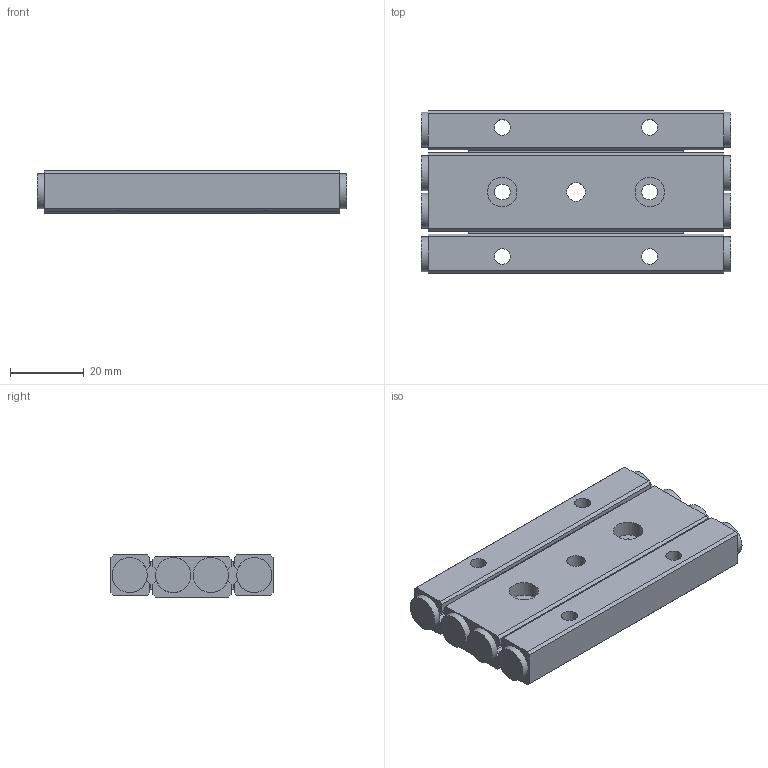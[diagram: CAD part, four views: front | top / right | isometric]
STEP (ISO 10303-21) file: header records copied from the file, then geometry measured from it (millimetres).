
FILE_DESCRIPTION(/* description */ ('STEP AP214'),/* implementation_level */ '2;1');
FILE_NAME(/* name */ 'VRG4WM-80Hx10Z(0)',/* time_stamp */ '2024-09-16T10:23:36+02:00',/* author */ ('License CC BY-ND 4.0'),/* organization */ ('CADENAS'),/* preprocessor_version */ 'ST-DEVELOPER v19.3',/* originating_system */ 'PARTsolutions',/* authorisation */ ' ');
FILE_SCHEMA (('AUTOMOTIVE_DESIGN {1 0 10303 214 3 1 1}'));
Length unit declared in the file: millimetre
Products named in the file (4): VRG4WM-80Hx10Z(0); VRG4VM-80*10Z-3; VRG4VM-80*10Z-1; VRG4VM-80*10Z-2
Assembly tree (5 placements, depth 2):
  VRG4WM-80Hx10Z(0)
    VRG4VM-80*10Z-3
    VRG4VM-80*10Z-1  x2
    VRG4VM-80*10Z-2  x2
Bounding box: 84 x 44 x 11.5 mm (x, y, z)
Volume: 36103.2 mm3; surface area: 17892 mm2
Topology: 5 solids, 5 shells, 489 faces, 1827 edges, 1198 vertices
Faces by surface type: plane 348, cylinder 101, cone 40
Full cylindrical faces by diameter (mm): 3.98 x8, 4.3 x6, 5 x1, 8 x6, 9.5 x8
Entity records: 11561 total; most frequent: CARTESIAN_POINT 2089, ORIENTED_EDGE 1776, DIRECTION 1632, EDGE_CURVE 888, VERTEX_POINT 594, AXIS2_PLACEMENT_3D 585, LINE 462, VECTOR 462
